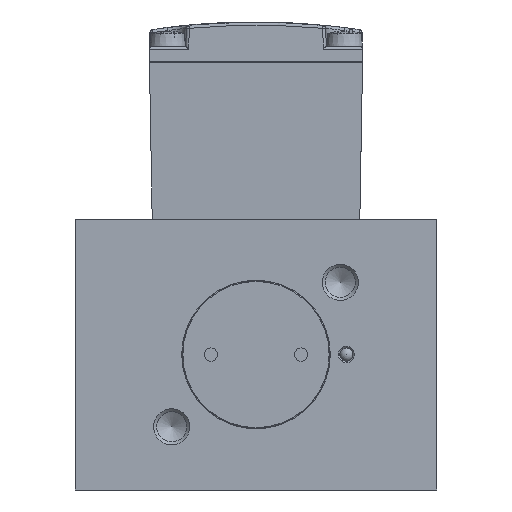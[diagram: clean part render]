
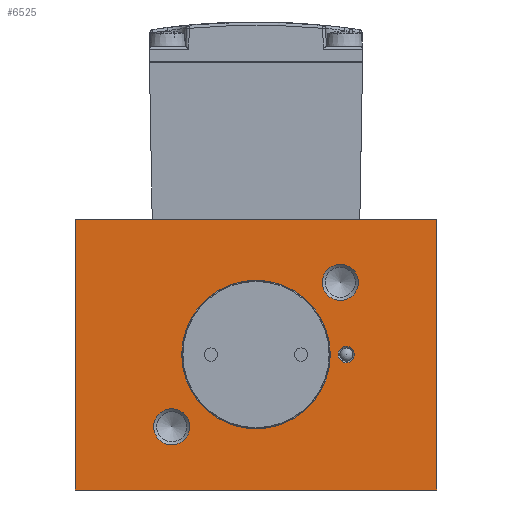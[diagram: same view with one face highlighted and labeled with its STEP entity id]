
A CAD part, front view. The second image highlights one B-rep face of the part: STEP entity #6525.
In plain terms, the highlighted planar face has unit normal (0, -1, 0).
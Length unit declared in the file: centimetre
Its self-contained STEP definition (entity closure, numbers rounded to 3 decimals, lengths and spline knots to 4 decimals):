
#123=FACE_BOUND('',#1912,.T.);
#124=FACE_BOUND('',#1913,.T.);
#125=FACE_BOUND('',#1914,.T.);
#126=FACE_BOUND('',#1915,.T.);
#299=LINE('',#26773,#788);
#312=LINE('',#26803,#801);
#391=LINE('',#27012,#880);
#401=LINE('',#27056,#890);
#788=VECTOR('',#7807,6.);
#801=VECTOR('',#7828,6.);
#880=VECTOR('',#8035,4.5);
#890=VECTOR('',#8071,4.5);
#1447=FACE_OUTER_BOUND('',#1911,.T.);
#1911=EDGE_LOOP('',(#4856,#4857,#4858,#4859));
#1912=EDGE_LOOP('',(#4860));
#1913=EDGE_LOOP('',(#4861));
#1914=EDGE_LOOP('',(#4862));
#1915=EDGE_LOOP('',(#4863));
#2487=CIRCLE('',#7007,1.235);
#2488=CIRCLE('',#7008,0.135);
#2489=CIRCLE('',#7009,0.3);
#2490=CIRCLE('',#7010,0.3);
#2877=VERTEX_POINT('',#26770);
#2878=VERTEX_POINT('',#26772);
#2890=VERTEX_POINT('',#26800);
#2891=VERTEX_POINT('',#26802);
#2979=VERTEX_POINT('',#27057);
#2980=VERTEX_POINT('',#27059);
#2981=VERTEX_POINT('',#27061);
#2982=VERTEX_POINT('',#27063);
#3564=EDGE_CURVE('',#2877,#2878,#299,.T.);
#3579=EDGE_CURVE('',#2890,#2891,#312,.T.);
#3675=EDGE_CURVE('',#2878,#2890,#391,.T.);
#3697=EDGE_CURVE('',#2891,#2877,#401,.T.);
#3698=EDGE_CURVE('',#2979,#2979,#2487,.T.);
#3699=EDGE_CURVE('',#2980,#2980,#2488,.T.);
#3700=EDGE_CURVE('',#2981,#2981,#2489,.T.);
#3701=EDGE_CURVE('',#2982,#2982,#2490,.T.);
#4856=ORIENTED_EDGE('',*,*,#3675,.F.);
#4857=ORIENTED_EDGE('',*,*,#3564,.F.);
#4858=ORIENTED_EDGE('',*,*,#3697,.F.);
#4859=ORIENTED_EDGE('',*,*,#3579,.F.);
#4860=ORIENTED_EDGE('',*,*,#3698,.T.);
#4861=ORIENTED_EDGE('',*,*,#3699,.T.);
#4862=ORIENTED_EDGE('',*,*,#3700,.F.);
#4863=ORIENTED_EDGE('',*,*,#3701,.F.);
#6242=PLANE('',#7006);
#6525=ADVANCED_FACE('',(#1447,#123,#124,#125,#126),#6242,.F.);
#7006=AXIS2_PLACEMENT_3D('',#27055,#8069,#8070);
#7007=AXIS2_PLACEMENT_3D('',#27058,#8072,#8073);
#7008=AXIS2_PLACEMENT_3D('',#27060,#8074,#8075);
#7009=AXIS2_PLACEMENT_3D('',#27062,#8076,#8077);
#7010=AXIS2_PLACEMENT_3D('',#27064,#8078,#8079);
#7807=DIRECTION('',(1.,0.,0.));
#7828=DIRECTION('',(-1.,0.,0.));
#8035=DIRECTION('',(0.,0.,-1.));
#8069=DIRECTION('center_axis',(0.,1.,0.));
#8070=DIRECTION('ref_axis',(-1.,0.,0.));
#8071=DIRECTION('',(0.,0.,1.));
#8072=DIRECTION('center_axis',(0.,1.,0.));
#8073=DIRECTION('ref_axis',(1.,0.,0.));
#8074=DIRECTION('center_axis',(0.,1.,0.));
#8075=DIRECTION('ref_axis',(0.,0.,1.));
#8076=DIRECTION('center_axis',(0.,-1.,0.));
#8077=DIRECTION('ref_axis',(1.,0.,0.));
#8078=DIRECTION('center_axis',(0.,-1.,0.));
#8079=DIRECTION('ref_axis',(1.,0.,0.));
#26770=CARTESIAN_POINT('',(-3.,0.,2.25));
#26772=CARTESIAN_POINT('',(3.,0.,2.25));
#26773=CARTESIAN_POINT('',(-3.,0.,2.25));
#26800=CARTESIAN_POINT('',(3.,0.,-2.25));
#26802=CARTESIAN_POINT('',(-3.,0.,-2.25));
#26803=CARTESIAN_POINT('',(3.,0.,-2.25));
#27012=CARTESIAN_POINT('',(3.,0.,2.25));
#27055=CARTESIAN_POINT('Origin',(0.,0.,0.));
#27056=CARTESIAN_POINT('',(-3.,0.,-2.25));
#27057=CARTESIAN_POINT('',(-1.235,0.,0.));
#27058=CARTESIAN_POINT('Origin',(0.,0.,0.));
#27059=CARTESIAN_POINT('',(1.365,0.,0.));
#27060=CARTESIAN_POINT('Origin',(1.5,0.,0.));
#27061=CARTESIAN_POINT('',(1.7,0.,1.2));
#27062=CARTESIAN_POINT('Origin',(1.4,0.,1.2));
#27063=CARTESIAN_POINT('',(-1.1,0.,-1.2));
#27064=CARTESIAN_POINT('Origin',(-1.4,0.,-1.2));
